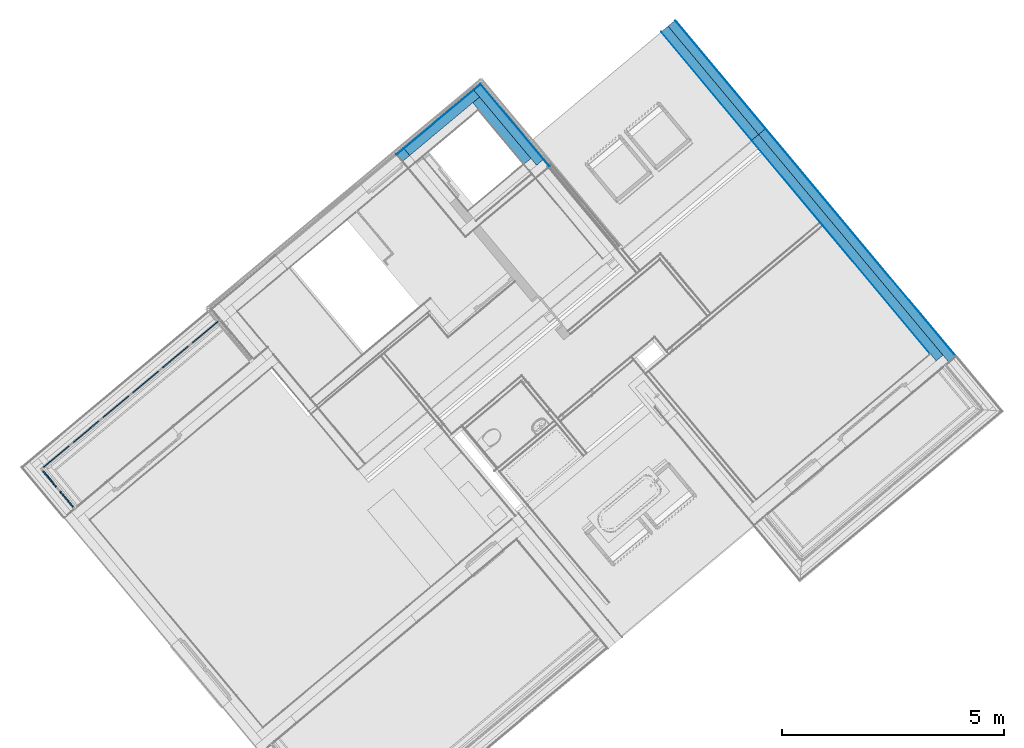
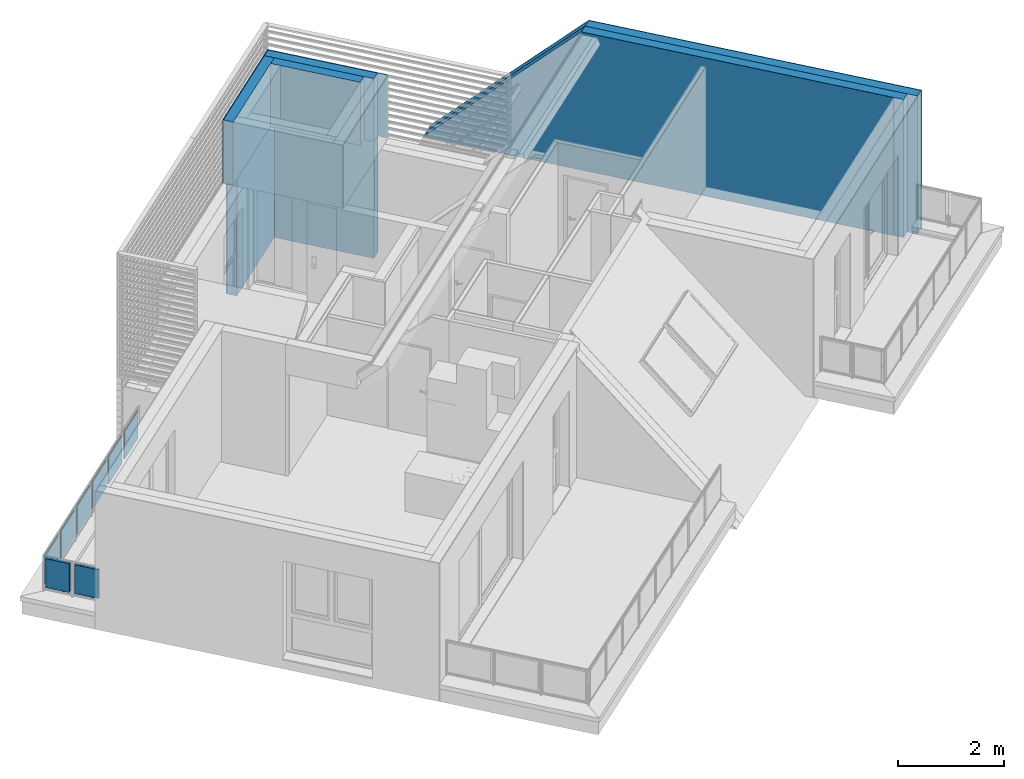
# One storey, part 36 of 47: 23 building element parts, 6 elements without a shape of their own.
"""IFC4 building model written with IfcOpenShell, lengths in metres."""

from ifc_helpers import new_model, entity, si_unit, converted_unit, derived_unit, direction, frame, origin_with_axes, place, context, subcontext, project, spatial, polygons, material, type_object, element, aggregate, save


model = new_model("IFC4")

# Units and contexts
model_context = context("Model", 3, precision=1e-05, world=origin_with_axes(), true_north=direction((0.0, 1.0)))
body_context = subcontext(model_context, "Body", "Model", "MODEL_VIEW")
ifc_project = project(units=[si_unit("LENGTHUNIT", "METRE"), si_unit("AREAUNIT", "SQUARE_METRE"), si_unit("VOLUMEUNIT", "CUBIC_METRE"), converted_unit("PLANEANGLEUNIT", "DEGREE", entity("IfcPlaneAngleMeasure", 0.0174532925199), si_unit("PLANEANGLEUNIT", "RADIAN"), dimensions=[0, 0, 0, 0, 0, 0, 0]), converted_unit("TIMEUNIT", "Year", entity("IfcTimeMeasure", 31556926.0), si_unit("TIMEUNIT", "SECOND"), dimensions=[0, 0, 1, 0, 0, 0, 0]), si_unit("MASSUNIT", "GRAM", prefix="KILO"), si_unit("THERMODYNAMICTEMPERATUREUNIT", "DEGREE_CELSIUS"), si_unit("LUMINOUSINTENSITYUNIT", "LUMEN"), si_unit("ENERGYUNIT", "JOULE", prefix="MEGA"), derived_unit("THERMALCONDUCTANCEUNIT", [(si_unit("POWERUNIT", "WATT"), 1), (si_unit("LENGTHUNIT", "METRE"), -1), (si_unit("THERMODYNAMICTEMPERATUREUNIT", "KELVIN"), -1)]), derived_unit("SPECIFICHEATCAPACITYUNIT", [(si_unit("ENERGYUNIT", "JOULE"), 1), (si_unit("MASSUNIT", "GRAM", prefix="KILO"), -1), (si_unit("THERMODYNAMICTEMPERATUREUNIT", "KELVIN"), -1)]), derived_unit("MASSDENSITYUNIT", [(si_unit("MASSUNIT", "GRAM", prefix="KILO"), 1), (si_unit("VOLUMEUNIT", "CUBIC_METRE"), -1)])], contexts=[model_context])

# Site, building, storey
site_placement = place(None, frame((-0.00153261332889, -0.00661245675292, 0.0), z_axis=(0.0, 0.0, 1.0), x_axis=(1.0, 0.0, 0.0)))
site = spatial("IfcSite", under=ifc_project, at=site_placement, Name="Site", CompositionType="ELEMENT")
building_placement = place(site_placement, origin_with_axes())
building = spatial("IfcBuilding", under=site, at=building_placement, Name="Building", CompositionType="ELEMENT")
storey_placement = place(building_placement, frame((0.0, 0.0, 8.66), z_axis=(0.0, 0.0, 1.0), x_axis=(1.0, 0.0, 0.0)))
storey = spatial("IfcBuildingStorey", under=building, at=storey_placement, Name="DG2", CompositionType="ELEMENT", Elevation=8.66)

# Wall, building element parts
wall_type = type_object("IfcWallType", Name="AW EG 420", PredefinedType="NOTDEFINED")
wall_1_placement = place(storey_placement, frame((6.03523969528, 29.0898827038, 0.0), z_axis=(0.0, 0.0, 1.0), x_axis=(0.641209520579, -0.767365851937, 0.0)))
wall_1 = element("IfcWall", 1, at=wall_1_placement, inside=storey, type_object=wall_type, Name="Wand-002", PredefinedType="NOTDEFINED")
ifc_material_1 = material(Name="Zementputz")
building_element_part_1_placement = place(wall_1_placement, origin_with_axes())
building_element_part_1 = element("IfcBuildingElementPart", 2, at=building_element_part_1_placement, material=ifc_material_1, Name="Zementputz", PredefinedType="NOTDEFINED", context=body_context, shape_type="Tessellation", body=[
    polygons([(7.7306872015e-09, 0.0, 5.8130140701e-09), (3.18000000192, 0.0, 3.18), (9.87091338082, 0.0, 3.18), (9.87091338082, 0.0, 0.0), (3.18000000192, -0.015, 3.18), (7.63572316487e-09, -0.015, 5.71815306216e-09), (9.87092314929, -0.015, 3.18), (9.87092314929, -0.015, 0.0)], [[[1, 2, 3, 4]], [[5, 2, 1, 6]], [[2, 5, 7, 3]], [[8, 4, 3, 7]], [[6, 1, 4, 8]], [[5, 6, 8, 7]]], closed=True),
])
ifc_material_2 = material(Name="EPS 1")
building_element_part_2_placement = place(wall_1_placement, origin_with_axes())
building_element_part_2 = element("IfcBuildingElementPart", 3, at=building_element_part_2_placement, material=ifc_material_2, Name="EPS 1", PredefinedType="NOTDEFINED", context=body_context, shape_type="Tessellation", body=[
    polygons([(7.63572316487e-09, -0.015, 5.71815306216e-09), (3.18000000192, -0.015, 3.18), (9.85592314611, -0.015, 3.18), (9.85592314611, -0.015, 0.0), (3.18000000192, -0.215, 3.18), (6.36953245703e-09, -0.215, 4.45335146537e-09), (9.85605339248, -0.215, 3.18), (9.85605339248, -0.215, 0.0)], [[[1, 2, 3, 4]], [[5, 2, 1, 6]], [[2, 5, 7, 3]], [[8, 4, 3, 7]], [[6, 1, 4, 8]], [[5, 6, 8, 7]]], closed=True),
])
ifc_material_3 = material(Name="Stahlbeton Wand")
building_element_part_3_placement = place(wall_1_placement, origin_with_axes())
building_element_part_3 = element("IfcBuildingElementPart", 4, at=building_element_part_3_placement, material=ifc_material_3, Name="Stahlbeton Wand", PredefinedType="NOTDEFINED", context=body_context, shape_type="Tessellation", body=[
    polygons([(6.36953245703e-09, -0.215, 4.45334791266e-09), (3.18000000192, -0.215, 3.18), (9.65605335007, -0.215, 3.18), (9.65605335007, -0.215, 0.0), (3.18000000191, -0.415, 3.18), (5.10334174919e-09, -0.415, 3.18854631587e-09), (9.65618359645, -0.415, 3.18), (9.65618359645, -0.415, 0.0)], [[[1, 2, 3, 4]], [[5, 2, 1, 6]], [[2, 5, 7, 3]], [[8, 4, 3, 7]], [[6, 1, 4, 8]], [[5, 6, 8, 7]]], closed=True),
])
building_element_part_4_placement = place(wall_1_placement, origin_with_axes())
building_element_part_4 = element("IfcBuildingElementPart", 5, at=building_element_part_4_placement, material=ifc_material_1, Name="Zementputz", PredefinedType="NOTDEFINED", context=body_context, shape_type="Tessellation", body=[
    polygons([(5.10334174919e-09, -0.415, 3.18854631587e-09), (3.18000000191, -0.415, 3.18), (9.45618355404, -0.415, 3.18), (9.45618355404, -0.415, 0.0), (3.18000000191, -0.42, 3.18), (5.07168707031e-09, -0.42, 3.15692716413e-09), (9.4561868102, -0.42, 3.18), (9.4561868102, -0.42, 0.0)], [[[1, 2, 3, 4]], [[5, 2, 1, 6]], [[2, 5, 7, 3]], [[8, 4, 3, 7]], [[6, 1, 4, 8]], [[5, 6, 8, 7]]], closed=True),
])
aggregate(wall_1, [building_element_part_1, building_element_part_2, building_element_part_3, building_element_part_4])

wall_2_placement = place(storey_placement, frame((1.65501137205, 27.6568148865, 0.0), z_axis=(0.0, 0.0, 1.0), x_axis=(0.641209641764, -0.767365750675, 0.0)))
wall_2 = element("IfcWall", 6, at=wall_2_placement, inside=storey, type_object=wall_type, Name="Wand-002", PredefinedType="NOTDEFINED")
building_element_part_5_placement = place(wall_2_placement, origin_with_axes())
building_element_part_5 = element("IfcBuildingElementPart", 7, at=building_element_part_5_placement, material=ifc_material_1, Name="Zementputz", PredefinedType="NOTDEFINED", context=body_context, shape_type="Tessellation", body=[
    polygons([(2.21626913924, -0.0150000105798, 2.69), (2.21627240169, 3.87430532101e-09, 2.69), (0.0, 1.67265312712e-10, 2.69), (-2.36895658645e-09, -0.0150000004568, 2.69), (2.21626913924, -0.0150000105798, 0.0), (2.21627240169, 3.87430532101e-09, 0.0), (0.0, 1.67265312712e-10, 0.0), (-2.36895658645e-09, -0.0150000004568, 0.0)], [[[1, 2, 3, 4]], [[2, 1, 5, 6]], [[2, 6, 7, 3]], [[3, 7, 8, 4]], [[5, 1, 4, 8]], [[6, 5, 8, 7]]], closed=True),
])
building_element_part_6_placement = place(wall_2_placement, origin_with_axes())
building_element_part_6 = element("IfcBuildingElementPart", 8, at=building_element_part_6_placement, material=ifc_material_2, Name="EPS 1", PredefinedType="NOTDEFINED", context=body_context, shape_type="Tessellation", body=[
    polygons([(2.2162256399, -0.215000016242, 2.69), (2.21626913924, -0.0150000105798, 2.69), (0.014999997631, -0.0150000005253, 2.69), (0.014999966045, -0.215000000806, 2.69), (2.21626913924, -0.0150000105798, 0.0), (2.2162256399, -0.215000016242, 0.0), (0.014999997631, -0.0150000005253, 0.0), (0.014999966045, -0.215000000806, 0.0)], [[[1, 2, 3, 4]], [[5, 2, 1, 6]], [[2, 5, 7, 3]], [[3, 7, 8, 4]], [[6, 1, 4, 8]], [[5, 6, 8, 7]]], closed=True),
])
aggregate(wall_2, [building_element_part_5, building_element_part_6])

wall_3_placement = place(storey_placement, frame((-0.0828746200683, 26.2046404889, 0.0), z_axis=(0.0, 0.0, 1.0), x_axis=(0.767365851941, 0.641209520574, 0.0)))
wall_3 = element("IfcWall", 9, at=wall_3_placement, inside=storey, type_object=wall_type, Name="Wand-002", PredefinedType="NOTDEFINED")
building_element_part_7_placement = place(wall_3_placement, origin_with_axes())
building_element_part_7 = element("IfcBuildingElementPart", 10, at=building_element_part_7_placement, material=ifc_material_1, Name="Zementputz", PredefinedType="NOTDEFINED", context=body_context, shape_type="Tessellation", body=[
    polygons([(2.24974241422, 0.0, 2.69), (0.0, 0.0, 2.69), (0.0, -0.015, 2.69), (2.24974241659, -0.015, 2.69), (2.24974241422, 0.0, 0.0), (0.0, 0.0, 0.0), (0.0, -0.015, 0.0), (2.24974241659, -0.015, 0.0)], [[[1, 2, 3, 4]], [[5, 6, 2, 1]], [[3, 2, 6, 7]], [[4, 3, 7, 8]], [[4, 8, 5, 1]], [[8, 7, 6, 5]]], closed=True),
])
building_element_part_8_placement = place(wall_3_placement, origin_with_axes())
building_element_part_8 = element("IfcBuildingElementPart", 11, at=building_element_part_8_placement, material=ifc_material_2, Name="EPS 1", PredefinedType="NOTDEFINED", context=body_context, shape_type="Tessellation", body=[
    polygons([(2.04974241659, -0.015, 2.69), (0.0, -0.015, 2.69), (0.0, -0.215, 2.69), (2.04974244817, -0.215, 2.69), (2.04974241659, -0.015, 0.0), (0.0, -0.015, 0.0), (0.0, -0.215, 0.0), (2.04974244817, -0.215, 0.0)], [[[1, 2, 3, 4]], [[5, 6, 2, 1]], [[3, 2, 6, 7]], [[4, 3, 7, 8]], [[4, 8, 5, 1]], [[8, 7, 6, 5]]], closed=True),
])
aggregate(wall_3, [building_element_part_7, building_element_part_8])

wall_4_placement = place(storey_placement, frame((2.62930714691, 25.8436145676, 2.69), z_axis=(0.0, 0.0, 1.0), x_axis=(-0.641209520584, 0.767365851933, 0.0)))
wall_4 = element("IfcWall", 12, at=wall_4_placement, inside=storey, type_object=wall_type, Name="Wand-002", PredefinedType="NOTDEFINED")
building_element_part_9_placement = place(wall_4_placement, origin_with_axes())
building_element_part_9 = element("IfcBuildingElementPart", 13, at=building_element_part_9_placement, material=ifc_material_3, Name="Stahlbeton Wand", PredefinedType="NOTDEFINED", context=body_context, shape_type="Tessellation", body=[
    polygons([(0.0, 0.0, 1.45), (3.51204464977e-06, -0.2, 1.45), (1.80111573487, -0.2, 1.45), (1.80111573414, 0.0, 1.45), (3.51204467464e-06, -0.2, 0.29), (0.0, 0.0, 0.29), (3.51204464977e-06, -0.2, 0.0), (1.80111573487, -0.2, 0.0), (1.80111573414, 0.0, 0.0), (0.0, 0.0, 0.0)], [[[1, 2, 3, 4]], [[5, 2, 1, 6]], [[2, 5, 7, 8, 3]], [[4, 3, 8, 9]], [[6, 1, 4, 9, 10]], [[5, 6, 10, 7]], [[7, 10, 9, 8]]], closed=True),
])
building_element_part_10_placement = place(wall_4_placement, origin_with_axes())
building_element_part_10 = element("IfcBuildingElementPart", 14, at=building_element_part_10_placement, material=ifc_material_2, Name="EPS 1", PredefinedType="NOTDEFINED", context=body_context, shape_type="Tessellation", body=[
    polygons([(-0.199996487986, -0.2, 1.45), (-0.199992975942, -0.4, 1.45), (2.0011157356, -0.4, 1.45), (2.00111573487, -0.2, 1.45), (-0.199992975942, -0.4, 0.29), (-0.199996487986, -0.2, 0.29), (-0.199992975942, -0.4, 0.0), (2.0011157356, -0.4, 0.0), (2.00111573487, -0.2, 0.0), (-0.199996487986, -0.2, 0.0)], [[[1, 2, 3, 4]], [[5, 2, 1, 6]], [[2, 5, 7, 8, 3]], [[4, 3, 8, 9]], [[6, 1, 4, 9, 10]], [[5, 6, 10, 7]], [[7, 10, 9, 8]]], closed=True),
])
building_element_part_11_placement = place(wall_4_placement, origin_with_axes())
building_element_part_11 = element("IfcBuildingElementPart", 15, at=building_element_part_11_placement, material=ifc_material_1, Name="Zementputz", PredefinedType="NOTDEFINED", context=body_context, shape_type="Tessellation", body=[
    polygons([(-0.399992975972, -0.4, 1.45), (-0.399992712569, -0.415, 1.45), (2.01611573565, -0.415, 1.45), (2.0161157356, -0.4, 1.45), (-0.399992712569, -0.415, 0.29), (-0.399992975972, -0.4, 0.29), (-0.399992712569, -0.415, 0.0), (2.01611573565, -0.415, 0.0), (2.0161157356, -0.4, 0.0), (-0.399992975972, -0.4, 0.0)], [[[1, 2, 3, 4]], [[5, 2, 1, 6]], [[2, 5, 7, 8, 3]], [[4, 3, 8, 9]], [[6, 1, 4, 9, 10]], [[5, 6, 10, 7]], [[7, 10, 9, 8]]], closed=True),
])
aggregate(wall_4, [building_element_part_9, building_element_part_10, building_element_part_11])

wall_5_placement = place(storey_placement, frame((1.60265649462, 27.072256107, 2.69), z_axis=(0.0, 0.0, 1.0), x_axis=(-0.767365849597, -0.641209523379, 0.0)))
wall_5 = element("IfcWall", 16, at=wall_5_placement, inside=storey, type_object=wall_type, Name="Wand-002", PredefinedType="NOTDEFINED")
building_element_part_12_placement = place(wall_5_placement, origin_with_axes())
building_element_part_12 = element("IfcBuildingElementPart", 17, at=building_element_part_12_placement, material=ifc_material_2, Name="EPS 1", PredefinedType="NOTDEFINED", context=body_context, shape_type="Tessellation", body=[
    polygons([(2.04954404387, -0.4, 0.0), (-0.200000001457, -0.4, 0.0), (-0.200000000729, -0.2, 0.0), (2.04955660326, -0.2, 0.0), (2.04954404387, -0.4, 1.45), (-0.200000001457, -0.4, 1.45), (-0.200000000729, -0.2, 1.45), (2.04955660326, -0.2, 1.45)], [[[1, 2, 3, 4]], [[5, 6, 2, 1]], [[3, 2, 6, 7]], [[4, 3, 7, 8]], [[4, 8, 5, 1]], [[8, 7, 6, 5]]], closed=True),
])
building_element_part_13_placement = place(wall_5_placement, origin_with_axes())
building_element_part_13 = element("IfcBuildingElementPart", 18, at=building_element_part_13_placement, material=ifc_material_1, Name="Zementputz", PredefinedType="NOTDEFINED", context=body_context, shape_type="Tessellation", body=[
    polygons([(2.06454310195, -0.415, 0.0), (-0.400000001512, -0.415, 0.0), (-0.400000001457, -0.4, 0.0), (2.0645440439, -0.4, 0.0), (2.06454310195, -0.415, 1.45), (-0.400000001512, -0.415, 1.45), (-0.400000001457, -0.4, 1.45), (2.0645440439, -0.4, 1.45)], [[[1, 2, 3, 4]], [[5, 6, 2, 1]], [[3, 2, 6, 7]], [[4, 3, 7, 8]], [[4, 8, 5, 1]], [[8, 7, 6, 5]]], closed=True),
])
aggregate(wall_5, [building_element_part_12, building_element_part_13])

# Railing, building element parts
railing_type = type_object("IfcRailingType", Name="Geländerart", PredefinedType="NOTDEFINED")
railing_placement = place(storey_placement, frame((-7.40951182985, 18.1414107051, 0.38), z_axis=(0.0, 0.0, 1.0), x_axis=(1.0, 0.0, 0.0)))
railing = element("IfcRailing", 19, at=railing_placement, inside=storey, type_object=railing_type, Name="Geländer - 001", PredefinedType="NOTDEFINED")
ifc_material_4 = material(Name="Profilit")
building_element_part_14_placement = place(railing_placement, origin_with_axes())
building_element_part_14 = element("IfcBuildingElementPart", 20, at=building_element_part_14_placement, material=ifc_material_4, Name="Profilit", PredefinedType="NOTDEFINED", context=body_context, shape_type="Tessellation", body=[
    polygons([(-0.41929399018, 0.33023821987, 0.135), (-0.126088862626, -0.0206542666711, 0.135), (-0.126088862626, -0.0206542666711, 0.775), (-0.41929399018, 0.33023821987, 0.775), (-0.110741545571, -0.00783007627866, 0.135), (-0.403946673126, 0.343062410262, 0.135), (-0.110741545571, -0.00783007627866, 0.775), (-0.403946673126, 0.343062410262, 0.775)], [[[1, 2, 3, 4]], [[5, 2, 1, 6]], [[7, 3, 2, 5]], [[4, 3, 7, 8]], [[1, 4, 8, 6]], [[7, 5, 6, 8]]], closed=True),
])
ifc_material_5 = material(Name="Aluminium")
building_element_part_15_placement = place(railing_placement, origin_with_axes())
building_element_part_15 = element("IfcBuildingElementPart", 21, at=building_element_part_15_placement, material=ifc_material_5, Name="Aluminium", PredefinedType="NOTDEFINED", context=body_context, shape_type="Tessellation", body=[
    polygons([(-0.174836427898, 0.0493809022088, 0.12), (-0.219721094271, 0.103096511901, 0.12), (-0.219721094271, 0.103096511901, 0.095), (-0.174836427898, 0.0493809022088, 0.095), (-0.170999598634, 0.0525869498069, 0.12), (-0.215884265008, 0.106302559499, 0.12), (-0.215884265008, 0.106302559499, 0.095), (-0.170999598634, 0.0525869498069, 0.095)], [[[1, 2, 3, 4]], [[5, 6, 2, 1]], [[2, 6, 7, 3]], [[4, 3, 7, 8]], [[1, 4, 8, 5]], [[8, 7, 6, 5]]], closed=True),
    polygons([(-0.359035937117, 0.269821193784, 0.79), (-0.314151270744, 0.216105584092, 0.79), (-0.314151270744, 0.216105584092, 0.795), (-0.359035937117, 0.269821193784, 0.795), (-0.355199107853, 0.273027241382, 0.79), (-0.31031444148, 0.219311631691, 0.79), (-0.31031444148, 0.219311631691, 0.795), (-0.355199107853, 0.273027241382, 0.795)], [[[1, 2, 3, 4]], [[5, 6, 2, 1]], [[2, 6, 7, 3]], [[4, 3, 7, 8]], [[1, 4, 8, 5]], [[8, 7, 6, 5]]], closed=True),
    polygons([(-0.0896129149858, -0.00972242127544, 0.12), (-0.127981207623, -0.0417828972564, 0.12), (-0.440422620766, 0.332130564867, 0.12), (-0.402054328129, 0.364191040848, 0.12), (-0.102437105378, 0.00562489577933, 0.14), (-0.113947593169, -0.00399324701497, 0.14), (-0.110741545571, -0.00783007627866, 0.135), (-0.126088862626, -0.0206542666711, 0.135), (-0.129294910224, -0.0168174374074, 0.14), (-0.140805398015, -0.0264355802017, 0.14), (-0.427598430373, 0.316783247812, 0.14), (-0.427598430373, 0.316783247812, 0.77), (-0.140805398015, -0.0264355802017, 0.77), (-0.140805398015, -0.0264355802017, 0.14), (-0.127981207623, -0.0417828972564, 0.12), (-0.127981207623, -0.0417828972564, 0.79), (-0.440422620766, 0.332130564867, 0.79), (-0.402054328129, 0.364191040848, 0.79), (-0.0896129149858, -0.00972242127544, 0.79), (-0.0896129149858, -0.00972242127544, 0.12), (-0.102437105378, 0.00562489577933, 0.14), (-0.102437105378, 0.00562489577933, 0.77), (-0.389230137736, 0.348843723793, 0.77), (-0.389230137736, 0.348843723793, 0.14), (-0.400740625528, 0.339225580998, 0.14), (-0.400740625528, 0.339225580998, 0.77), (-0.113947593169, -0.00399324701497, 0.77), (-0.113947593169, -0.00399324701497, 0.14), (-0.110741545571, -0.00783007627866, 0.135), (-0.110741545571, -0.00783007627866, 0.775), (-0.403946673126, 0.343062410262, 0.775), (-0.403946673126, 0.343062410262, 0.135), (-0.41929399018, 0.33023821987, 0.135), (-0.41929399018, 0.33023821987, 0.775), (-0.126088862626, -0.0206542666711, 0.775), (-0.126088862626, -0.0206542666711, 0.135), (-0.129294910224, -0.0168174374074, 0.14), (-0.129294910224, -0.0168174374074, 0.77), (-0.416087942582, 0.326401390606, 0.77), (-0.416087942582, 0.326401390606, 0.14)], [[[1, 2, 3, 4]], [[1, 5, 6, 7, 8, 9, 10, 2]], [[2, 10, 11, 12, 13, 14, 15, 16, 17, 3]], [[4, 3, 17, 18]], [[5, 1, 4, 18, 19, 20, 21, 22, 23, 24]], [[6, 5, 24, 25]], [[7, 6, 25, 26, 27, 28, 29, 30, 31, 32]], [[8, 7, 32, 33]], [[9, 8, 33, 34, 35, 36, 37, 38, 39, 40]], [[10, 9, 40, 11]], [[11, 40, 39, 12]], [[12, 39, 38, 13]], [[13, 38, 37, 14]], [[20, 15, 14, 37, 36, 29, 28, 21]], [[19, 16, 15, 20]], [[18, 17, 16, 19]], [[27, 22, 21, 28]], [[26, 23, 22, 27]], [[25, 24, 23, 26]], [[35, 30, 29, 36]], [[34, 31, 30, 35]], [[33, 32, 31, 34]]], closed=True),
])
building_element_part_16_placement = place(railing_placement, origin_with_axes())
building_element_part_16 = element("IfcBuildingElementPart", 22, at=building_element_part_16_placement, material=ifc_material_4, Name="Profilit", PredefinedType="NOTDEFINED", context=body_context, shape_type="Tessellation", body=[
    polygons([(-0.795856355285, 0.780888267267, 0.135), (-0.502651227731, 0.429995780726, 0.135), (-0.502651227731, 0.429995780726, 0.775), (-0.795856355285, 0.780888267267, 0.775), (-0.487303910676, 0.442819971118, 0.135), (-0.780509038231, 0.793712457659, 0.135), (-0.487303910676, 0.442819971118, 0.775), (-0.780509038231, 0.793712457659, 0.775)], [[[1, 2, 3, 4]], [[5, 2, 1, 6]], [[7, 3, 2, 5]], [[4, 3, 7, 8]], [[1, 4, 8, 6]], [[7, 5, 6, 8]]], closed=True),
])
building_element_part_17_placement = place(railing_placement, origin_with_axes())
building_element_part_17 = element("IfcBuildingElementPart", 23, at=building_element_part_17_placement, material=ifc_material_5, Name="Aluminium", PredefinedType="NOTDEFINED", context=body_context, shape_type="Tessellation", body=[
    polygons([(-0.551398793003, 0.500030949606, 0.12), (-0.596283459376, 0.553746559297, 0.12), (-0.596283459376, 0.553746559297, 0.095), (-0.551398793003, 0.500030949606, 0.095), (-0.547561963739, 0.503236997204, 0.12), (-0.592446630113, 0.556952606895, 0.12), (-0.592446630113, 0.556952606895, 0.095), (-0.547561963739, 0.503236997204, 0.095)], [[[1, 2, 3, 4]], [[5, 6, 2, 1]], [[2, 6, 7, 3]], [[4, 3, 7, 8]], [[1, 4, 8, 5]], [[8, 7, 6, 5]]], closed=True),
    polygons([(-0.735598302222, 0.720471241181, 0.79), (-0.690713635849, 0.666755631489, 0.79), (-0.690713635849, 0.666755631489, 0.795), (-0.735598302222, 0.720471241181, 0.795), (-0.731761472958, 0.723677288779, 0.79), (-0.686876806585, 0.669961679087, 0.79), (-0.686876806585, 0.669961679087, 0.795), (-0.731761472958, 0.723677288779, 0.795)], [[[1, 2, 3, 4]], [[5, 6, 2, 1]], [[2, 6, 7, 3]], [[4, 3, 7, 8]], [[1, 4, 8, 5]], [[8, 7, 6, 5]]], closed=True),
    polygons([(-0.466175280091, 0.440927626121, 0.12), (-0.504543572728, 0.40886715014, 0.12), (-0.816984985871, 0.782780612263, 0.12), (-0.778616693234, 0.814841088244, 0.12), (-0.478999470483, 0.456274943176, 0.14), (-0.490509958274, 0.446656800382, 0.14), (-0.487303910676, 0.442819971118, 0.135), (-0.502651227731, 0.429995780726, 0.135), (-0.505857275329, 0.433832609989, 0.14), (-0.51736776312, 0.424214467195, 0.14), (-0.804160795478, 0.767433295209, 0.14), (-0.804160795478, 0.767433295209, 0.77), (-0.51736776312, 0.424214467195, 0.77), (-0.51736776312, 0.424214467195, 0.14), (-0.504543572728, 0.40886715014, 0.12), (-0.504543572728, 0.40886715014, 0.79), (-0.816984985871, 0.782780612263, 0.79), (-0.778616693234, 0.814841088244, 0.79), (-0.466175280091, 0.440927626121, 0.79), (-0.466175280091, 0.440927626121, 0.12), (-0.478999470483, 0.456274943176, 0.14), (-0.478999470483, 0.456274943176, 0.77), (-0.765792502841, 0.79949377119, 0.77), (-0.765792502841, 0.79949377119, 0.14), (-0.777302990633, 0.789875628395, 0.14), (-0.777302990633, 0.789875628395, 0.77), (-0.490509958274, 0.446656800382, 0.77), (-0.490509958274, 0.446656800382, 0.14), (-0.487303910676, 0.442819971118, 0.135), (-0.487303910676, 0.442819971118, 0.775), (-0.780509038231, 0.793712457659, 0.775), (-0.780509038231, 0.793712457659, 0.135), (-0.795856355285, 0.780888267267, 0.135), (-0.795856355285, 0.780888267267, 0.775), (-0.502651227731, 0.429995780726, 0.775), (-0.502651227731, 0.429995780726, 0.135), (-0.505857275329, 0.433832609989, 0.14), (-0.505857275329, 0.433832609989, 0.77), (-0.792650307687, 0.777051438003, 0.77), (-0.792650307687, 0.777051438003, 0.14)], [[[1, 2, 3, 4]], [[1, 5, 6, 7, 8, 9, 10, 2]], [[2, 10, 11, 12, 13, 14, 15, 16, 17, 3]], [[4, 3, 17, 18]], [[5, 1, 4, 18, 19, 20, 21, 22, 23, 24]], [[6, 5, 24, 25]], [[7, 6, 25, 26, 27, 28, 29, 30, 31, 32]], [[8, 7, 32, 33]], [[9, 8, 33, 34, 35, 36, 37, 38, 39, 40]], [[10, 9, 40, 11]], [[11, 40, 39, 12]], [[12, 39, 38, 13]], [[13, 38, 37, 14]], [[20, 15, 14, 37, 36, 29, 28, 21]], [[19, 16, 15, 20]], [[18, 17, 16, 19]], [[27, 22, 21, 28]], [[26, 23, 22, 27]], [[25, 24, 23, 26]], [[35, 30, 29, 36]], [[34, 31, 30, 35]], [[33, 32, 31, 34]]], closed=True),
])
building_element_part_18_placement = place(railing_placement, origin_with_axes())
building_element_part_18 = element("IfcBuildingElementPart", 24, at=building_element_part_18_placement, material=ifc_material_4, Name="Profilit", PredefinedType="NOTDEFINED", context=body_context, shape_type="Tessellation", body=[
    polygons([(-0.215320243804, 1.36372017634, 0.135), (-0.786394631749, 0.886531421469, 0.135), (-0.786394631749, 0.886531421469, 0.775), (-0.215320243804, 1.36372017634, 0.775), (-0.773570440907, 0.87118410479, 0.135), (-0.202496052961, 1.34837285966, 0.135), (-0.773570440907, 0.87118410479, 0.775), (-0.202496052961, 1.34837285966, 0.775)], [[[1, 2, 3, 4]], [[5, 2, 1, 6]], [[7, 3, 2, 5]], [[4, 3, 7, 8]], [[1, 4, 8, 6]], [[7, 5, 6, 8]]], closed=True),
])
building_element_part_19_placement = place(railing_placement, origin_with_axes())
building_element_part_19 = element("IfcBuildingElementPart", 25, at=building_element_part_19_placement, material=ifc_material_4, Name="Profilit", PredefinedType="NOTDEFINED", context=body_context, shape_type="Tessellation", body=[
    polygons([(0.455511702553, 1.92426617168, 0.135), (-0.115562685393, 1.44707741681, 0.135), (-0.115562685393, 1.44707741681, 0.775), (0.455511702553, 1.92426617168, 0.775), (-0.10273849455, 1.43173010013, 0.135), (0.468335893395, 1.908918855, 0.135), (-0.10273849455, 1.43173010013, 0.775), (0.468335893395, 1.908918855, 0.775)], [[[1, 2, 3, 4]], [[5, 2, 1, 6]], [[7, 3, 2, 5]], [[4, 3, 7, 8]], [[1, 4, 8, 6]], [[7, 5, 6, 8]]], closed=True),
])
building_element_part_20_placement = place(railing_placement, origin_with_axes())
building_element_part_20 = element("IfcBuildingElementPart", 26, at=building_element_part_20_placement, material=ifc_material_4, Name="Profilit", PredefinedType="NOTDEFINED", context=body_context, shape_type="Tessellation", body=[
    polygons([(1.12634364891, 2.48481216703, 0.135), (0.555269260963, 2.00762341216, 0.135), (0.555269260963, 2.00762341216, 0.775), (1.12634364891, 2.48481216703, 0.775), (0.568093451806, 1.99227609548, 0.135), (1.13916783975, 2.46946485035, 0.135), (0.568093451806, 1.99227609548, 0.775), (1.13916783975, 2.46946485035, 0.775)], [[[1, 2, 3, 4]], [[5, 2, 1, 6]], [[7, 3, 2, 5]], [[4, 3, 7, 8]], [[1, 4, 8, 6]], [[7, 5, 6, 8]]], closed=True),
])
building_element_part_21_placement = place(railing_placement, origin_with_axes())
building_element_part_21 = element("IfcBuildingElementPart", 27, at=building_element_part_21_placement, material=ifc_material_4, Name="Profilit", PredefinedType="NOTDEFINED", context=body_context, shape_type="Tessellation", body=[
    polygons([(1.79717559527, 3.04535816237, 0.135), (1.22610120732, 2.5681694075, 0.135), (1.22610120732, 2.5681694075, 0.775), (1.79717559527, 3.04535816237, 0.775), (1.23892539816, 2.55282209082, 0.135), (1.80999978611, 3.03001084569, 0.135), (1.23892539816, 2.55282209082, 0.775), (1.80999978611, 3.03001084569, 0.775)], [[[1, 2, 3, 4]], [[5, 2, 1, 6]], [[7, 3, 2, 5]], [[4, 3, 7, 8]], [[1, 4, 8, 6]], [[7, 5, 6, 8]]], closed=True),
])
building_element_part_22_placement = place(railing_placement, origin_with_axes())
building_element_part_22 = element("IfcBuildingElementPart", 28, at=building_element_part_22_placement, material=ifc_material_4, Name="Profilit", PredefinedType="NOTDEFINED", context=body_context, shape_type="Tessellation", body=[
    polygons([(2.46800754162, 3.60590415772, 0.135), (1.89693315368, 3.12871540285, 0.135), (1.89693315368, 3.12871540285, 0.775), (2.46800754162, 3.60590415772, 0.775), (1.90975734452, 3.11336808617, 0.135), (2.48083173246, 3.59055684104, 0.135), (1.90975734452, 3.11336808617, 0.775), (2.48083173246, 3.59055684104, 0.775)], [[[1, 2, 3, 4]], [[5, 2, 1, 6]], [[7, 3, 2, 5]], [[4, 3, 7, 8]], [[1, 4, 8, 6]], [[7, 5, 6, 8]]], closed=True),
])
building_element_part_23_placement = place(railing_placement, origin_with_axes())
building_element_part_23 = element("IfcBuildingElementPart", 29, at=building_element_part_23_placement, material=ifc_material_4, Name="Profilit", PredefinedType="NOTDEFINED", context=body_context, shape_type="Tessellation", body=[
    polygons([(3.13883948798, 4.16645015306, 0.135), (2.56776510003, 3.68926139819, 0.135), (2.56776510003, 3.68926139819, 0.775), (3.13883948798, 4.16645015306, 0.775), (2.58058929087, 3.67391408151, 0.135), (3.15166367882, 4.15110283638, 0.135), (2.58058929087, 3.67391408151, 0.775), (3.15166367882, 4.15110283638, 0.775)], [[[1, 2, 3, 4]], [[5, 2, 1, 6]], [[7, 3, 2, 5]], [[4, 3, 7, 8]], [[1, 4, 8, 6]], [[7, 5, 6, 8]]], closed=True),
])
aggregate(railing, [building_element_part_14, building_element_part_15, building_element_part_16, building_element_part_17, building_element_part_18, building_element_part_19, building_element_part_20, building_element_part_21, building_element_part_22, building_element_part_23])

save(model, "model.ifc")
